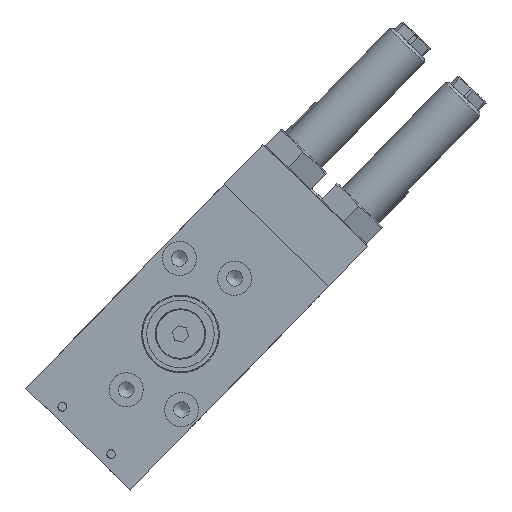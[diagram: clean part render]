
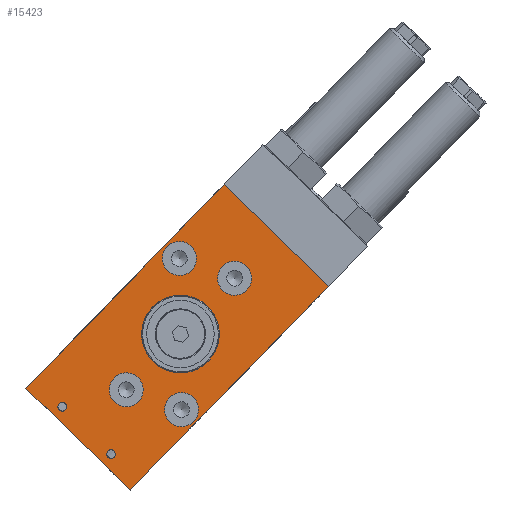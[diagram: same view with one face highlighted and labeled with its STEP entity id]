
A CAD part, front view. The second image highlights one B-rep face of the part: STEP entity #15423.
In plain terms, the highlighted planar face has unit normal (0, -1, 0).
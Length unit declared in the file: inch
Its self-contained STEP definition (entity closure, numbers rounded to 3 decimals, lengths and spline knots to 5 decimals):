
#832=FACE_BOUND('',#3284,.T.);
#833=FACE_BOUND('',#3285,.T.);
#834=FACE_BOUND('',#3286,.T.);
#835=FACE_BOUND('',#3287,.T.);
#836=FACE_BOUND('',#3288,.T.);
#837=FACE_BOUND('',#3289,.T.);
#838=FACE_BOUND('',#3290,.T.);
#992=CIRCLE('',#16103,0.31496);
#1260=CIRCLE('',#16889,0.03543);
#1261=CIRCLE('',#16895,0.03543);
#1289=CIRCLE('',#16974,0.1378);
#1293=CIRCLE('',#16982,0.1378);
#1297=CIRCLE('',#16990,0.1378);
#1301=CIRCLE('',#16998,0.1378);
#2327=FACE_OUTER_BOUND('',#3283,.T.);
#3283=EDGE_LOOP('',(#11921,#11922,#11923,#11924));
#3284=EDGE_LOOP('',(#11925));
#3285=EDGE_LOOP('',(#11926));
#3286=EDGE_LOOP('',(#11927));
#3287=EDGE_LOOP('',(#11928));
#3288=EDGE_LOOP('',(#11929));
#3289=EDGE_LOOP('',(#11930));
#3290=EDGE_LOOP('',(#11931));
#3931=LINE('',#23894,#4844);
#4278=LINE('',#25504,#5191);
#4280=LINE('',#25507,#5193);
#4294=LINE('',#25584,#5207);
#4844=VECTOR('',#18965,0.3937);
#5191=VECTOR('',#20182,0.3937);
#5193=VECTOR('',#20186,0.3937);
#5207=VECTOR('',#20220,0.3937);
#5788=VERTEX_POINT('',#23090);
#6015=VERTEX_POINT('',#23892);
#6016=VERTEX_POINT('',#23893);
#6421=VERTEX_POINT('',#25501);
#6422=VERTEX_POINT('',#25503);
#6479=VERTEX_POINT('',#25923);
#6484=VERTEX_POINT('',#25936);
#6528=VERTEX_POINT('',#26143);
#6533=VERTEX_POINT('',#26159);
#6538=VERTEX_POINT('',#26175);
#6543=VERTEX_POINT('',#26191);
#7299=EDGE_CURVE('',#5788,#5788,#992,.T.);
#7638=EDGE_CURVE('',#6015,#6016,#3931,.T.);
#8237=EDGE_CURVE('',#6422,#6421,#4278,.T.);
#8239=EDGE_CURVE('',#6422,#6015,#4280,.T.);
#8262=EDGE_CURVE('',#6421,#6016,#4294,.T.);
#8328=EDGE_CURVE('',#6479,#6479,#1260,.T.);
#8335=EDGE_CURVE('',#6484,#6484,#1261,.T.);
#8415=EDGE_CURVE('',#6528,#6528,#1289,.T.);
#8422=EDGE_CURVE('',#6533,#6533,#1293,.T.);
#8429=EDGE_CURVE('',#6538,#6538,#1297,.T.);
#8436=EDGE_CURVE('',#6543,#6543,#1301,.T.);
#11921=ORIENTED_EDGE('',*,*,#8262,.T.);
#11922=ORIENTED_EDGE('',*,*,#7638,.F.);
#11923=ORIENTED_EDGE('',*,*,#8239,.F.);
#11924=ORIENTED_EDGE('',*,*,#8237,.T.);
#11925=ORIENTED_EDGE('',*,*,#8328,.T.);
#11926=ORIENTED_EDGE('',*,*,#8335,.T.);
#11927=ORIENTED_EDGE('',*,*,#7299,.T.);
#11928=ORIENTED_EDGE('',*,*,#8415,.T.);
#11929=ORIENTED_EDGE('',*,*,#8422,.T.);
#11930=ORIENTED_EDGE('',*,*,#8429,.T.);
#11931=ORIENTED_EDGE('',*,*,#8436,.T.);
#13998=PLANE('',#17003);
#15423=ADVANCED_FACE('',(#2327,#832,#833,#834,#835,#836,#837,#838),#13998,
 .T.);
#16103=AXIS2_PLACEMENT_3D('',#23091,#18252,#18253);
#16889=AXIS2_PLACEMENT_3D('',#25924,#20360,#20361);
#16895=AXIS2_PLACEMENT_3D('',#25937,#20374,#20375);
#16974=AXIS2_PLACEMENT_3D('',#26144,#20566,#20567);
#16982=AXIS2_PLACEMENT_3D('',#26160,#20585,#20586);
#16990=AXIS2_PLACEMENT_3D('',#26176,#20604,#20605);
#16998=AXIS2_PLACEMENT_3D('',#26192,#20623,#20624);
#17003=AXIS2_PLACEMENT_3D('',#26200,#20636,#20637);
#18252=DIRECTION('center_axis',(0.,1.,0.));
#18253=DIRECTION('ref_axis',(1.,0.,0.));
#18965=DIRECTION('',(0.,0.,1.));
#20182=DIRECTION('',(0.,0.,1.));
#20186=DIRECTION('',(-1.,0.,0.));
#20220=DIRECTION('',(-1.,0.,0.));
#20360=DIRECTION('center_axis',(0.,1.,0.));
#20361=DIRECTION('ref_axis',(1.,0.,0.));
#20374=DIRECTION('center_axis',(0.,1.,0.));
#20375=DIRECTION('ref_axis',(1.,0.,0.));
#20566=DIRECTION('center_axis',(0.,1.,0.));
#20567=DIRECTION('ref_axis',(1.,0.,0.));
#20585=DIRECTION('center_axis',(0.,1.,0.));
#20586=DIRECTION('ref_axis',(1.,0.,0.));
#20604=DIRECTION('center_axis',(0.,1.,0.));
#20605=DIRECTION('ref_axis',(1.,0.,0.));
#20623=DIRECTION('center_axis',(0.,1.,0.));
#20624=DIRECTION('ref_axis',(1.,0.,0.));
#20636=DIRECTION('center_axis',(0.,-1.,0.));
#20637=DIRECTION('ref_axis',(0.,0.,-1.));
#23090=CARTESIAN_POINT('',(-1.50394,0.,0.59055));
#23091=CARTESIAN_POINT('Origin',(-1.18898,0.,0.59055));
#23892=CARTESIAN_POINT('',(-2.30315,0.,0.));
#23893=CARTESIAN_POINT('',(-2.30315,0.,1.1811));
#23894=CARTESIAN_POINT('',(-2.30315,0.,0.));
#25501=CARTESIAN_POINT('',(0.,0.,1.1811));
#25503=CARTESIAN_POINT('',(0.,0.,0.));
#25504=CARTESIAN_POINT('',(0.,0.,0.));
#25507=CARTESIAN_POINT('',(0.,0.,0.));
#25584=CARTESIAN_POINT('',(0.,0.,1.1811));
#25923=CARTESIAN_POINT('',(-0.13386,0.,0.31496));
#25924=CARTESIAN_POINT('Origin',(-0.09843,0.,0.31496));
#25936=CARTESIAN_POINT('',(-0.13386,0.,0.86614));
#25937=CARTESIAN_POINT('Origin',(-0.09843,0.,0.86614));
#26143=CARTESIAN_POINT('',(-1.75984,0.,0.15748));
#26144=CARTESIAN_POINT('Origin',(-1.62205,0.,0.15748));
#26159=CARTESIAN_POINT('',(-0.8937,0.,1.02362));
#26160=CARTESIAN_POINT('Origin',(-0.75591,0.,1.02362));
#26175=CARTESIAN_POINT('',(-0.69685,0.,0.59055));
#26176=CARTESIAN_POINT('Origin',(-0.55906,0.,0.59055));
#26191=CARTESIAN_POINT('',(-1.95669,0.,0.59055));
#26192=CARTESIAN_POINT('Origin',(-1.8189,0.,0.59055));
#26200=CARTESIAN_POINT('Origin',(0.,0.,0.));
